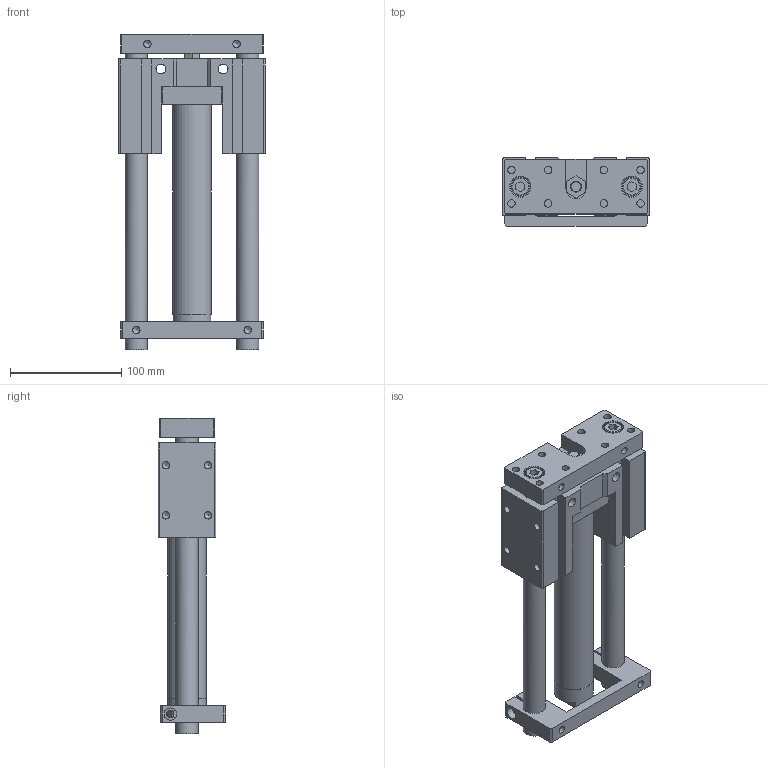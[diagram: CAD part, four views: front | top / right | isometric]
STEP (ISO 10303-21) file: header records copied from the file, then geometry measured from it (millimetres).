
FILE_DESCRIPTION((''),'2;1');
FILE_NAME('I:\3D電子目錄\氣缸\TMB(U)\TMB(U)\TMB(U)32\TMB(U)32x150.stp','2007-10-05T11:17:45',('Administrator'),(''),'Autodesk Inventor 11','Autodesk Inventor 11','');
FILE_SCHEMA(('AUTOMOTIVE_DESIGN { 1 0 10303 214 1 1 1 1 }'));
Length unit declared in the file: millimetre
Products named in the file (1): TMB(U)32
Bounding box: 132 x 61 x 283 mm (x, y, z)
Volume: 848568.1 mm3; surface area: 142978.4 mm2
Topology: 1 solids, 1 shells, 198 faces, 514 edges, 338 vertices
Faces by surface type: plane 117, bspline 41, cylinder 23, cone 15, torus 2
Full cylindrical faces by diameter (mm): 6.5 x2, 6.647 x6, 10 x1, 11 x1, 16 x2, 18 x2, 20 x2, 35 x2
Entity records: 6000 total; most frequent: CARTESIAN_POINT 1554, DIRECTION 850, ORIENTED_EDGE 842, EDGE_CURVE 421, EDGE_LOOP 320, VERTEX_POINT 313, VECTOR 300, LINE 300
